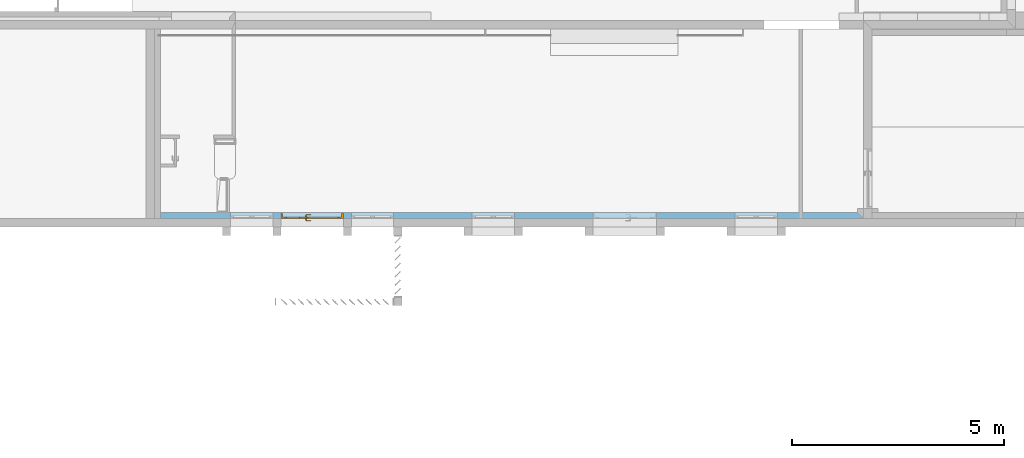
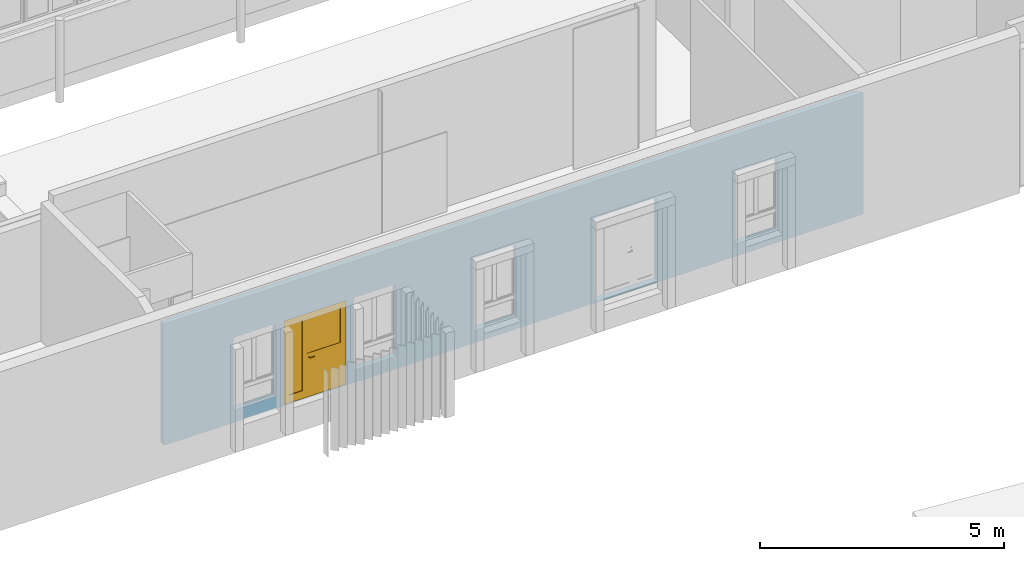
# One storey, part 16 of 34: 1 door, 6 openings, plus 1 element that does not belong to this part.
"""IFC2X3 building model written with IfcOpenShell, lengths in metres."""

from ifc_helpers import new_model, entity, si_unit, converted_unit, derived_unit, money_unit, direction, frame, origin_with_axes, origin_2d_with_axis, place, context, subcontext, project, spatial, polyline, rectangle, outline, extrude, open_shell, faceted_brep, surface_model, material, layer, layer_set, layer_usage, type_object, element, fill, save


model = new_model("IFC2X3")

# Units and contexts
model_context = context("Model", 3, precision=1e-05, world=origin_with_axes(), true_north=direction((0.0, 1.0)))
body_context = subcontext(model_context, "Body", "Model", "MODEL_VIEW")
ifc_project = project(units=[si_unit("LENGTHUNIT", "METRE"), si_unit("AREAUNIT", "SQUARE_METRE"), si_unit("VOLUMEUNIT", "CUBIC_METRE"), converted_unit("PLANEANGLEUNIT", "DEGREE", entity("IfcPlaneAngleMeasure", 0.0174532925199), si_unit("PLANEANGLEUNIT", "RADIAN"), dimensions=[0, 0, 0, 0, 0, 0, 0]), money_unit("CHF"), converted_unit("TIMEUNIT", "Year", entity("IfcTimeMeasure", 31556926.0), si_unit("TIMEUNIT", "SECOND"), dimensions=[0, 0, 1, 0, 0, 0, 0]), si_unit("MASSUNIT", "GRAM", prefix="KILO"), si_unit("THERMODYNAMICTEMPERATUREUNIT", "DEGREE_CELSIUS"), si_unit("LUMINOUSINTENSITYUNIT", "LUMEN"), si_unit("ENERGYUNIT", "JOULE", prefix="MEGA"), derived_unit("THERMALCONDUCTANCEUNIT", [(si_unit("POWERUNIT", "WATT"), 1), (si_unit("LENGTHUNIT", "METRE"), -1), (si_unit("THERMODYNAMICTEMPERATUREUNIT", "KELVIN"), -1)]), derived_unit("SPECIFICHEATCAPACITYUNIT", [(si_unit("ENERGYUNIT", "JOULE"), 1), (si_unit("MASSUNIT", "GRAM", prefix="KILO"), -1), (si_unit("THERMODYNAMICTEMPERATUREUNIT", "KELVIN"), -1)]), derived_unit("MASSDENSITYUNIT", [(si_unit("MASSUNIT", "GRAM", prefix="KILO"), 1), (si_unit("VOLUMEUNIT", "CUBIC_METRE"), -1)])], contexts=[model_context])

# Site, building, storey
site_placement = place(None, origin_with_axes())
site = spatial("IfcSite", under=ifc_project, at=site_placement, Name="Site", CompositionType="ELEMENT")
building_placement = place(site_placement, origin_with_axes())
building = spatial("IfcBuilding", under=site, at=building_placement, Name="Bâtiment", CompositionType="ELEMENT")
storey_placement = place(building_placement, origin_with_axes())
storey = spatial("IfcBuildingStorey", under=building, at=storey_placement, Name="RDC", CompositionType="ELEMENT", Elevation=-5.32907e-15)

# Wall, openings, door
ifc_material_1 = material(Name="Isolation laine de pierre 378182646")
ifc_layer_1 = layer(ifc_material_1, 0.12, ventilated="UNKNOWN")
ifc_material_2 = material(Name="Plâtre lissé 291446788")
ifc_layer_2 = layer(ifc_material_2, 0.02, ventilated="UNKNOWN")
ifc_layer_set = layer_set([ifc_layer_1, ifc_layer_2], Name="DOUBLAGE ISO + BA13 14 CM")
ifc_layer_usage = layer_usage(ifc_layer_set, "AXIS2", "POSITIVE", 0.0)
wall_type = type_object("IfcWallType", Name="DOUBLAGE ISO + BA13 14 CM 140", PredefinedType="NOTDEFINED")
wall_placement = place(storey_placement, frame((1675.44729001, 177.58004191, 0.44), z_axis=(0.0, 0.0, 1.0), x_axis=(1.0, 0.0, 0.0)))
wall = element("IfcWallStandardCase", 1, at=wall_placement, inside=storey, type_object=wall_type, material=ifc_layer_usage, Name="Mur-005", context=body_context, shape_type="SweptSolid", body=[
    extrude(outline(polyline([(0.14, 0.0), (16.71995181, 0.0), (16.57995181, 0.14), (0.14, 0.14), (0.14, 0.0)])), origin_with_axes(), (0.0, 0.0, 1.0), 3.05067199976),
])
opening_1_placement = place(wall_placement, frame((5.14, 0.0, 0.31), z_axis=(0.0, 0.0, 1.0), x_axis=(1.0, 0.0, 0.0)))
element("IfcOpeningElement", 2, at=opening_1_placement, cuts=wall, Name="Fen-003", context=body_context, shape_type="SweptSolid", body=[
    extrude(rectangle(XDim=1.0, YDim=1.82, at=origin_2d_with_axis()), frame((0.0, 0.14, 0.91), z_axis=(0.0, 1.0, 0.0), x_axis=(-1.0, 0.0, 0.0)), (0.0, 0.0, -1.0), 0.42),
])
opening_2_placement = place(wall_placement, frame((7.99, 0.0, 0.31), z_axis=(0.0, 0.0, 1.0), x_axis=(1.0, 0.0, 0.0)))
element("IfcOpeningElement", 3, at=opening_2_placement, cuts=wall, Name="Fen-003", context=body_context, shape_type="SweptSolid", body=[
    extrude(rectangle(XDim=1.0, YDim=1.82, at=origin_2d_with_axis()), frame((0.0, 0.14, 0.91), z_axis=(0.0, 1.0, 0.0), x_axis=(-1.0, 0.0, 0.0)), (0.0, 0.0, -1.0), 0.42),
])
opening_3_placement = place(wall_placement, frame((14.19, 0.0, 0.31), z_axis=(0.0, 0.0, 1.0), x_axis=(1.0, 0.0, 0.0)))
element("IfcOpeningElement", 4, at=opening_3_placement, cuts=wall, Name="Fen-003", context=body_context, shape_type="SweptSolid", body=[
    extrude(rectangle(XDim=1.0, YDim=1.82, at=origin_2d_with_axis()), frame((0.0, 0.14, 0.91), z_axis=(0.0, 1.0, 0.0), x_axis=(-1.0, 0.0, 0.0)), (0.0, 0.0, -1.0), 0.42),
])
opening_4_placement = place(wall_placement, frame((2.29, 0.0, 0.31), z_axis=(0.0, 0.0, 1.0), x_axis=(1.0, 0.0, 0.0)))
element("IfcOpeningElement", 5, at=opening_4_placement, cuts=wall, Name="Fen-004", context=body_context, shape_type="SweptSolid", body=[
    extrude(rectangle(XDim=1.0, YDim=1.82, at=origin_2d_with_axis()), frame((0.0, 0.14, 0.91), z_axis=(0.0, 1.0, 0.0), x_axis=(-1.0, 0.0, 0.0)), (0.0, 0.0, -1.0), 0.42),
])
opening_5_placement = place(wall_placement, frame((11.09, 0.0, 0.03), z_axis=(0.0, 0.0, 1.0), x_axis=(1.0, 0.0, 0.0)))
element("IfcOpeningElement", 6, at=opening_5_placement, cuts=wall, Name="Por-006", context=body_context, shape_type="SweptSolid", body=[
    extrude(rectangle(XDim=1.5, YDim=2.1, at=origin_2d_with_axis()), frame((0.0, 0.14, 1.05), z_axis=(0.0, -1.0, 0.0), x_axis=(-1.0, 0.0, 0.0)), (0.0, 0.0, 1.0), 0.42),
])
opening_6_placement = place(wall_placement, frame((3.715, 0.0, 0.03), z_axis=(0.0, 0.0, 1.0), x_axis=(1.0, 0.0, 0.0)))
opening_6 = element("IfcOpeningElement", 7, at=opening_6_placement, cuts=wall, Name="Por-006", context=body_context, shape_type="SweptSolid", body=[
    extrude(rectangle(XDim=1.47, YDim=2.1, at=origin_2d_with_axis()), frame((0.0, 0.14, 1.05), z_axis=(0.0, 1.0, 0.0), x_axis=(1.0, 0.0, 0.0)), (0.0, 0.0, -1.0), 0.42),
])
door_style = type_object("IfcDoorStyle", Name="Porte double asymétrique 25", ConstructionType="NOTDEFINED", OperationType="DOUBLE_DOOR_SINGLE_SWING", ParameterTakesPrecedence=False, Sizeable=False)
door_placement = place(opening_6_placement, frame((0.735, 0.0, 0.0), z_axis=(0.0, 0.0, 1.0), x_axis=(-1.0, 0.0, 0.0)))
door = element("IfcDoor", 8, at=door_placement, inside=storey, type_object=door_style, Name="Por-006", OverallHeight=2.1, OverallWidth=1.47, context=body_context, shape_type="SurfaceModel", body=[
    faceted_brep([(1.43, -0.04, 0.0), (1.43, -0.115, 0.0), (1.43, -0.115, 2.06), (1.43, -0.04, 2.06), (1.442, -0.04, 0.0), (1.442, 0.0, 0.0), (1.47, 0.0, 0.0), (1.47, -0.115, 0.0), (1.47, -0.115, 2.06), (1.442, -0.04, 2.06), (1.47, 0.0, 2.06), (1.442, 0.0, 2.06)], [[[0, 1, 2, 3]], [[4, 5, 6, 7, 1, 0]], [[1, 7, 8, 2]], [[9, 3, 2, 8, 10, 11]], [[9, 4, 0, 3]], [[11, 5, 4, 9]], [[11, 10, 6, 5]], [[6, 10, 8, 7]]]),
    faceted_brep([(0.028, -0.04, 2.06), (0.028, 0.0, 2.06), (0.0, 0.0, 2.06), (0.0, -0.115, 2.06), (0.04, -0.115, 2.06), (0.04, -0.04, 2.06), (0.028, -0.04, 0.0), (0.028, 0.0, 0.0), (0.0, 0.0, 0.0), (0.0, -0.115, 0.0), (0.04, -0.115, 0.0), (0.04, -0.04, 0.0)], [[[0, 1, 2, 3, 4, 5]], [[0, 6, 7, 1]], [[7, 8, 2, 1]], [[2, 8, 9, 3]], [[3, 9, 10, 4]], [[5, 4, 10, 11]], [[5, 11, 6, 0]], [[6, 11, 10, 9, 8, 7]]]),
    faceted_brep([(1.442, 0.0, 2.072), (0.028, 0.0, 2.072), (0.028, 0.0, 2.06), (0.0, 0.0, 2.06), (0.0, 0.0, 2.1), (1.47, 0.0, 2.1), (1.47, 0.0, 2.06), (1.442, 0.0, 2.06), (1.442, -0.04, 2.072), (0.028, -0.04, 2.072), (0.028, -0.04, 2.06), (0.04, -0.04, 2.06), (0.04, -0.115, 2.06), (0.0, -0.115, 2.06), (0.0, -0.115, 2.1), (1.47, -0.115, 2.1), (1.47, -0.115, 2.06), (1.442, -0.04, 2.06), (1.43, -0.115, 2.06), (1.43, -0.04, 2.06)], [[[0, 1, 2, 3, 4, 5, 6, 7]], [[0, 8, 9, 1]], [[1, 9, 10, 2]], [[10, 11, 12, 13, 3, 2]], [[4, 3, 13, 14]], [[5, 4, 14, 15]], [[6, 5, 15, 16]], [[17, 7, 6, 16, 18, 19]], [[7, 17, 8, 0]], [[10, 9, 8, 17, 19, 11]], [[19, 18, 12, 11]], [[12, 18, 16, 15, 14, 13]]]),
    faceted_brep([(0.903, -0.04, 0.93), (0.903, -0.045, 0.93), (0.901096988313, -0.045, 0.920432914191), (0.901096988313, -0.04, 0.920432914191), (0.903, -0.04, 1.055), (0.903, -0.045, 1.055), (0.901096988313, -0.045, 1.06456708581), (0.89567766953, -0.045, 1.07267766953), (0.887567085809, -0.045, 1.07809698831), (0.878, -0.045, 1.08), (0.868432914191, -0.045, 1.07809698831), (0.86032233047, -0.045, 1.07267766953), (0.854903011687, -0.045, 1.06456708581), (0.853, -0.045, 1.055), (0.853, -0.045, 0.93), (0.854903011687, -0.045, 0.920432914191), (0.86032233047, -0.045, 0.91232233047), (0.868432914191, -0.045, 0.906903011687), (0.878, -0.045, 0.905), (0.887567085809, -0.045, 0.906903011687), (0.89567766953, -0.045, 0.91232233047), (0.89567766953, -0.04, 0.91232233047), (0.887567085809, -0.04, 0.906903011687), (0.878, -0.04, 0.905), (0.868432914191, -0.04, 0.906903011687), (0.86032233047, -0.04, 0.91232233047), (0.854903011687, -0.04, 0.920432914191), (0.853, -0.04, 0.93), (0.853, -0.04, 1.055), (0.854903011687, -0.04, 1.06456708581), (0.86032233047, -0.04, 1.07267766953), (0.868432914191, -0.04, 1.07809698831), (0.878, -0.04, 1.08), (0.887567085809, -0.04, 1.07809698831), (0.89567766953, -0.04, 1.07267766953), (0.901096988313, -0.04, 1.06456708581)], [[[0, 1, 2, 3]], [[4, 5, 1, 0]], [[1, 5, 6, 7, 8, 9, 10, 11, 12, 13, 14, 15, 16, 17, 18, 19, 20, 2]], [[3, 2, 20, 21]], [[0, 3, 21, 22, 23, 24, 25, 26, 27, 28, 29, 30, 31, 32, 33, 34, 35, 4]], [[35, 6, 5, 4]], [[34, 7, 6, 35]], [[33, 8, 7, 34]], [[32, 9, 8, 33]], [[31, 10, 9, 32]], [[30, 11, 10, 31]], [[29, 12, 11, 30]], [[28, 13, 12, 29]], [[27, 14, 13, 28]], [[26, 15, 14, 27]], [[25, 16, 15, 26]], [[24, 17, 16, 25]], [[23, 18, 17, 24]], [[22, 19, 18, 23]], [[21, 20, 19, 22]]]),
    faceted_brep([(0.8705, -0.045, 1.005), (0.8705, -0.045, 0.995), (0.8705, -0.075, 0.995), (0.8705, -0.075, 1.005), (0.8855, -0.045, 1.005), (0.8855, -0.045, 0.995), (0.8855, -0.082, 0.995), (0.884510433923, -0.0869748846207, 0.995), (0.881692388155, -0.0911923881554, 0.995), (0.877474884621, -0.0940104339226, 0.995), (0.8725, -0.095, 0.995), (0.7655, -0.095, 0.995), (0.7655, -0.093, 0.995), (0.766489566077, -0.0880251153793, 0.995), (0.769307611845, -0.0838076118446, 0.995), (0.773525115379, -0.0809895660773, 0.995), (0.7785, -0.08, 0.995), (0.8655, -0.08, 0.995), (0.867413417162, -0.0796193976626, 0.995), (0.869035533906, -0.0785355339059, 0.995), (0.870119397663, -0.0769134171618, 0.995), (0.870119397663, -0.0769134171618, 1.005), (0.869035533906, -0.0785355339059, 1.005), (0.867413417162, -0.0796193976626, 1.005), (0.8655, -0.08, 1.005), (0.7785, -0.08, 1.005), (0.773525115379, -0.0809895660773, 1.005), (0.769307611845, -0.0838076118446, 1.005), (0.766489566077, -0.0880251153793, 1.005), (0.7655, -0.093, 1.005), (0.7655, -0.095, 1.005), (0.8725, -0.095, 1.005), (0.877474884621, -0.0940104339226, 1.005), (0.881692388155, -0.0911923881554, 1.005), (0.884510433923, -0.0869748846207, 1.005), (0.8855, -0.082, 1.005)], [[[0, 1, 2, 3]], [[4, 5, 1, 0]], [[1, 5, 6, 7, 8, 9, 10, 11, 12, 13, 14, 15, 16, 17, 18, 19, 20, 2]], [[3, 2, 20, 21]], [[0, 3, 21, 22, 23, 24, 25, 26, 27, 28, 29, 30, 31, 32, 33, 34, 35, 4]], [[35, 6, 5, 4]], [[34, 7, 6, 35]], [[33, 8, 7, 34]], [[32, 9, 8, 33]], [[31, 10, 9, 32]], [[30, 11, 10, 31]], [[29, 12, 11, 30]], [[28, 13, 12, 29]], [[27, 14, 13, 28]], [[26, 15, 14, 27]], [[25, 16, 15, 26]], [[24, 17, 16, 25]], [[23, 18, 17, 24]], [[22, 19, 18, 23]], [[21, 20, 19, 22]]]),
    faceted_brep([(0.903, 0.0, 0.93), (0.901096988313, 0.0, 0.920432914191), (0.901096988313, 0.005, 0.920432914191), (0.903, 0.005, 0.93), (0.903, 0.0, 1.055), (0.901096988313, 0.0, 1.06456708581), (0.89567766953, 0.0, 1.07267766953), (0.887567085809, 0.0, 1.07809698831), (0.878, 0.0, 1.08), (0.868432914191, 0.0, 1.07809698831), (0.86032233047, 0.0, 1.07267766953), (0.854903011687, 0.0, 1.06456708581), (0.853, 0.0, 1.055), (0.853, 0.0, 0.93), (0.854903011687, 0.0, 0.920432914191), (0.86032233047, 0.0, 0.91232233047), (0.868432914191, 0.0, 0.906903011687), (0.878, 0.0, 0.905), (0.887567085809, 0.0, 0.906903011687), (0.89567766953, 0.0, 0.91232233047), (0.89567766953, 0.005, 0.91232233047), (0.887567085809, 0.005, 0.906903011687), (0.878, 0.005, 0.905), (0.868432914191, 0.005, 0.906903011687), (0.86032233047, 0.005, 0.91232233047), (0.854903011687, 0.005, 0.920432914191), (0.853, 0.005, 0.93), (0.853, 0.005, 1.055), (0.854903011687, 0.005, 1.06456708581), (0.86032233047, 0.005, 1.07267766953), (0.868432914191, 0.005, 1.07809698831), (0.878, 0.005, 1.08), (0.887567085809, 0.005, 1.07809698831), (0.89567766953, 0.005, 1.07267766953), (0.901096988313, 0.005, 1.06456708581), (0.903, 0.005, 1.055)], [[[0, 1, 2, 3]], [[0, 4, 5, 6, 7, 8, 9, 10, 11, 12, 13, 14, 15, 16, 17, 18, 19, 1]], [[1, 19, 20, 2]], [[3, 2, 20, 21, 22, 23, 24, 25, 26, 27, 28, 29, 30, 31, 32, 33, 34, 35]], [[4, 0, 3, 35]], [[5, 4, 35, 34]], [[6, 5, 34, 33]], [[7, 6, 33, 32]], [[8, 7, 32, 31]], [[9, 8, 31, 30]], [[10, 9, 30, 29]], [[11, 10, 29, 28]], [[12, 11, 28, 27]], [[13, 12, 27, 26]], [[14, 13, 26, 25]], [[15, 14, 25, 24]], [[16, 15, 24, 23]], [[17, 16, 23, 22]], [[18, 17, 22, 21]], [[19, 18, 21, 20]]]),
    faceted_brep([(0.8705, 0.005, 1.005), (0.8705, 0.035, 1.005), (0.8705, 0.035, 0.995), (0.8705, 0.005, 0.995), (0.8855, 0.005, 1.005), (0.8855, 0.042, 1.005), (0.884510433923, 0.0469748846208, 1.005), (0.881692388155, 0.0511923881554, 1.005), (0.877474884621, 0.0540104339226, 1.005), (0.8725, 0.055, 1.005), (0.7655, 0.055, 1.005), (0.7655, 0.053, 1.005), (0.766489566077, 0.0480251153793, 1.005), (0.769307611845, 0.0438076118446, 1.005), (0.773525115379, 0.0409895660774, 1.005), (0.7785, 0.04, 1.005), (0.8655, 0.04, 1.005), (0.867413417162, 0.0396193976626, 1.005), (0.869035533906, 0.0385355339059, 1.005), (0.870119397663, 0.0369134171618, 1.005), (0.870119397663, 0.0369134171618, 0.995), (0.869035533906, 0.0385355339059, 0.995), (0.867413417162, 0.0396193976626, 0.995), (0.8655, 0.04, 0.995), (0.7785, 0.04, 0.995), (0.773525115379, 0.0409895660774, 0.995), (0.769307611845, 0.0438076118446, 0.995), (0.766489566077, 0.0480251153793, 0.995), (0.7655, 0.053, 0.995), (0.7655, 0.055, 0.995), (0.8725, 0.055, 0.995), (0.877474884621, 0.0540104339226, 0.995), (0.881692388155, 0.0511923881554, 0.995), (0.884510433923, 0.0469748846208, 0.995), (0.8855, 0.042, 0.995), (0.8855, 0.005, 0.995)], [[[0, 1, 2, 3]], [[0, 4, 5, 6, 7, 8, 9, 10, 11, 12, 13, 14, 15, 16, 17, 18, 19, 1]], [[1, 19, 20, 2]], [[3, 2, 20, 21, 22, 23, 24, 25, 26, 27, 28, 29, 30, 31, 32, 33, 34, 35]], [[4, 0, 3, 35]], [[5, 4, 35, 34]], [[6, 5, 34, 33]], [[7, 6, 33, 32]], [[8, 7, 32, 31]], [[9, 8, 31, 30]], [[10, 9, 30, 29]], [[11, 10, 29, 28]], [[12, 11, 28, 27]], [[13, 12, 27, 26]], [[14, 13, 26, 25]], [[15, 14, 25, 24]], [[16, 15, 24, 23]], [[17, 16, 23, 22]], [[18, 17, 22, 21]], [[19, 18, 21, 20]]]),
    faceted_brep([(0.038, 0.002, 0.01), (0.918, 0.002, 0.01), (0.918, 0.0, 0.01), (0.038, 0.0, 0.01), (0.038, 0.002, 1.1), (0.918, 0.002, 1.1), (0.918, 0.0, 1.1), (0.038, 0.0, 1.1)], [[[0, 1, 2, 3]], [[0, 4, 5, 1]], [[1, 5, 6, 2]], [[3, 2, 6, 7]], [[4, 0, 3, 7]], [[5, 4, 7, 6]]]),
    faceted_brep([(0.038, -0.04, 0.01), (0.918, -0.04, 0.01), (0.918, -0.042, 0.01), (0.038, -0.042, 0.01), (0.038, -0.04, 1.1), (0.918, -0.04, 1.1), (0.918, -0.042, 1.1), (0.038, -0.042, 1.1)], [[[0, 1, 2, 3]], [[0, 4, 5, 1]], [[1, 5, 6, 2]], [[3, 2, 6, 7]], [[4, 0, 3, 7]], [[5, 4, 7, 6]]]),
    faceted_brep([(0.028, 0.0, 0.2), (0.128, 0.0, 0.2), (0.128, -0.04, 0.2), (0.028, -0.04, 0.2), (0.028, 0.0, 1.972), (0.128, 0.0, 1.972), (0.128, -0.04, 1.972), (0.028, -0.04, 1.972)], [[[0, 1, 2, 3]], [[0, 4, 5, 1]], [[1, 5, 6, 2]], [[3, 2, 6, 7]], [[4, 0, 3, 7]], [[5, 4, 7, 6]]]),
    faceted_brep([(0.928, 0.0, 0.2), (0.928, 0.0, 1.972), (0.928, -0.04, 1.972), (0.928, -0.04, 0.2), (0.828, 0.0, 0.2), (0.828, 0.0, 1.972), (0.828, -0.04, 1.972), (0.828, -0.04, 0.2)], [[[0, 1, 2, 3]], [[0, 4, 5, 1]], [[1, 5, 6, 2]], [[3, 2, 6, 7]], [[4, 0, 3, 7]], [[5, 4, 7, 6]]]),
    faceted_brep([(0.028, 0.0, 0.0), (0.928, 0.0, 0.0), (0.928, -0.04, 0.0), (0.028, -0.04, 0.0), (0.028, 0.0, 0.2), (0.128, 0.0, 0.2), (0.828, 0.0, 0.2), (0.928, 0.0, 0.2), (0.928, -0.04, 0.2), (0.828, -0.04, 0.2), (0.128, -0.04, 0.2), (0.028, -0.04, 0.2)], [[[0, 1, 2, 3]], [[0, 4, 5, 6, 7, 1]], [[1, 7, 8, 2]], [[3, 2, 8, 9, 10, 11]], [[4, 0, 3, 11]], [[5, 4, 11, 10]], [[6, 5, 10, 9]], [[7, 6, 9, 8]]]),
    faceted_brep([(0.028, 0.0, 2.072), (0.028, 0.0, 1.972), (0.028, -0.04, 1.972), (0.028, -0.04, 2.072), (0.928, 0.0, 2.072), (0.928, 0.0, 1.972), (0.828, 0.0, 1.972), (0.128, 0.0, 1.972), (0.128, -0.04, 1.972), (0.828, -0.04, 1.972), (0.928, -0.04, 1.972), (0.928, -0.04, 2.072)], [[[0, 1, 2, 3]], [[0, 4, 5, 6, 7, 1]], [[1, 7, 8, 2]], [[3, 2, 8, 9, 10, 11]], [[4, 0, 3, 11]], [[5, 4, 11, 10]], [[6, 5, 10, 9]], [[7, 6, 9, 8]]]),
    surface_model("IfcShellBasedSurfaceModel", [(0.128, -0.014, 0.2), (0.128, -0.014, 1.972), (0.828, -0.014, 1.972), (0.828, -0.014, 0.2)], [open_shell([[[0, 1, 2, 3]]])]),
    surface_model("IfcShellBasedSurfaceModel", [(0.128, -0.026, 0.2), (0.828, -0.026, 0.2), (0.828, -0.026, 1.972), (0.128, -0.026, 1.972)], [open_shell([[[0, 1, 2, 3]]])]),
    faceted_brep([(1.442, 0.0, 0.2), (1.442, -0.04, 0.2), (1.342, -0.04, 0.2), (1.342, 0.0, 0.2), (1.442, 0.0, 1.972), (1.442, -0.04, 1.972), (1.342, -0.04, 1.972), (1.342, 0.0, 1.972)], [[[0, 1, 2, 3]], [[4, 5, 1, 0]], [[1, 5, 6, 2]], [[3, 2, 6, 7]], [[0, 3, 7, 4]], [[7, 6, 5, 4]]]),
    faceted_brep([(0.928, 0.0, 0.2), (0.928, -0.04, 0.2), (0.928, -0.04, 1.972), (0.928, 0.0, 1.972), (1.028, 0.0, 0.2), (1.028, -0.04, 0.2), (1.028, -0.04, 1.972), (1.028, 0.0, 1.972)], [[[0, 1, 2, 3]], [[4, 5, 1, 0]], [[1, 5, 6, 2]], [[3, 2, 6, 7]], [[0, 3, 7, 4]], [[7, 6, 5, 4]]]),
    faceted_brep([(1.442, 0.0, 0.0), (1.442, -0.04, 0.0), (0.928, -0.04, 0.0), (0.928, 0.0, 0.0), (1.442, 0.0, 0.2), (1.442, -0.04, 0.2), (1.342, -0.04, 0.2), (1.028, -0.04, 0.2), (0.928, -0.04, 0.2), (0.928, 0.0, 0.2), (1.028, 0.0, 0.2), (1.342, 0.0, 0.2)], [[[0, 1, 2, 3]], [[4, 5, 1, 0]], [[1, 5, 6, 7, 8, 2]], [[3, 2, 8, 9]], [[0, 3, 9, 10, 11, 4]], [[11, 6, 5, 4]], [[10, 7, 6, 11]], [[9, 8, 7, 10]]]),
    faceted_brep([(1.442, 0.0, 2.072), (1.442, -0.04, 2.072), (1.442, -0.04, 1.972), (1.442, 0.0, 1.972), (0.928, 0.0, 2.072), (0.928, -0.04, 2.072), (0.928, -0.04, 1.972), (1.028, -0.04, 1.972), (1.342, -0.04, 1.972), (1.342, 0.0, 1.972), (1.028, 0.0, 1.972), (0.928, 0.0, 1.972)], [[[0, 1, 2, 3]], [[4, 5, 1, 0]], [[1, 5, 6, 7, 8, 2]], [[3, 2, 8, 9]], [[0, 3, 9, 10, 11, 4]], [[11, 6, 5, 4]], [[10, 7, 6, 11]], [[9, 8, 7, 10]]]),
    surface_model("IfcShellBasedSurfaceModel", [(1.342, -0.014, 0.2), (1.028, -0.014, 0.2), (1.028, -0.014, 1.972), (1.342, -0.014, 1.972)], [open_shell([[[0, 1, 2, 3]]])]),
    surface_model("IfcShellBasedSurfaceModel", [(1.342, -0.026, 0.2), (1.342, -0.026, 1.972), (1.028, -0.026, 1.972), (1.028, -0.026, 0.2)], [open_shell([[[0, 1, 2, 3]]])]),
])
fill(opening_6, door)

save(model, "model.ifc")
